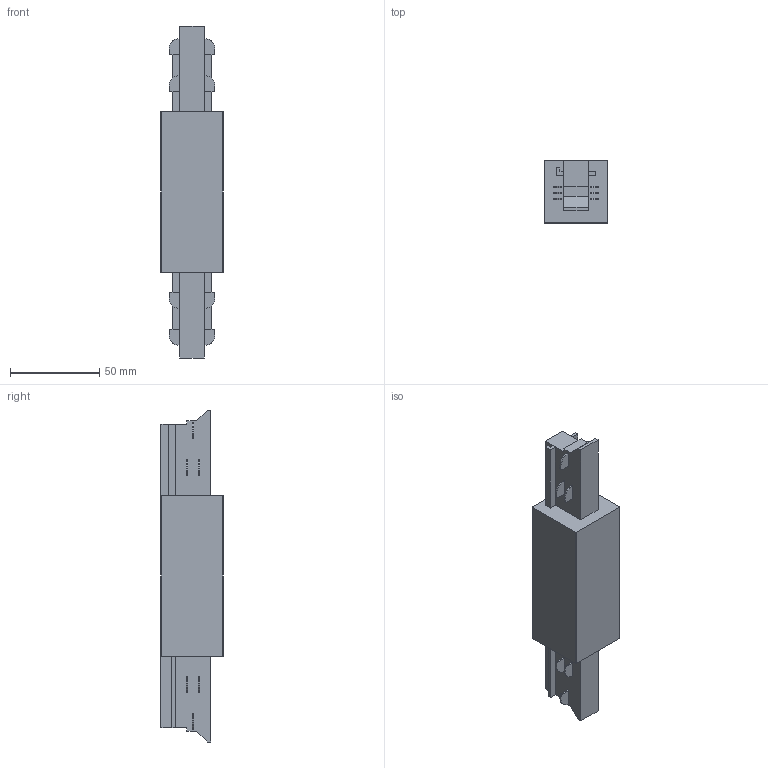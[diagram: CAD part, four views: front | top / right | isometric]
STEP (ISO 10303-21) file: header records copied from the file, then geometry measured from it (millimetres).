
FILE_DESCRIPTION (( 'STEP AP214' ), '1' );
FILE_NAME ('Kehui Track - I joiner.STEP', '2024-05-09T00:15:19', ( '' ), ( '' ), 'SwSTEP 2.0', 'SolidWorks 2021', '' );
FILE_SCHEMA (( 'AUTOMOTIVE_DESIGN' ));
Length unit declared in the file: millimetre
Products named in the file (1): Kehui Track - I joiner
Bounding box: 35 x 34.81 x 186 mm (x, y, z)
Volume: 143951.8 mm3; surface area: 27406 mm2
Topology: 19 solids, 19 shells, 142 faces, 312 edges, 208 vertices
Faces by surface type: plane 114, cylinder 24, bspline 4
Entity records: 4084 total; most frequent: CARTESIAN_POINT 715, DIRECTION 630, ORIENTED_EDGE 624, EDGE_CURVE 312, LINE 256, VECTOR 256, VERTEX_POINT 208, AXIS2_PLACEMENT_3D 187
